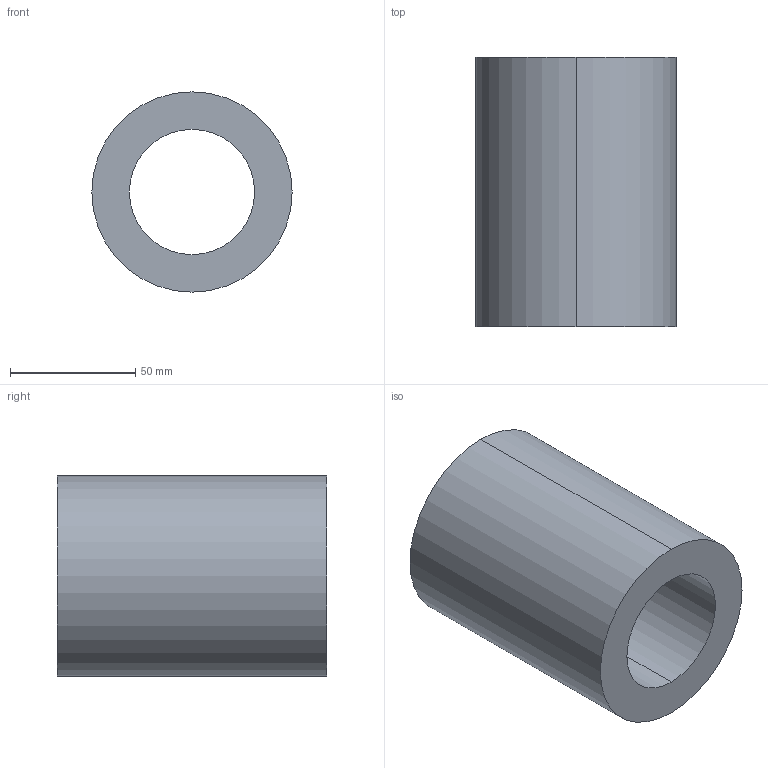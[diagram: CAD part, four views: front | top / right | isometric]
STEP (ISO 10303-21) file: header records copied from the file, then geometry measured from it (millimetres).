
FILE_DESCRIPTION (( 'STEP AP214' ), '1' );
FILE_NAME ('P-087-020-rev-C-Solid.STEP', '2024-01-06T12:16:42', ( '' ), ( '' ), 'SwSTEP 2.0', 'SolidWorks 2023', '' );
FILE_SCHEMA (( 'AUTOMOTIVE_DESIGN' ));
Length unit declared in the file: millimetre
Products named in the file (1): P-087-020-rev-C-Solid
Bounding box: 80 x 107.5 x 80 mm (x, y, z)
Volume: 313697.8 mm3; surface area: 50571.8 mm2
Topology: 1 solids, 1 shells, 9 faces, 18 edges, 12 vertices
Faces by surface type: cylinder 6, plane 3
Entity records: 271 total; most frequent: DIRECTION 50, CARTESIAN_POINT 40, ORIENTED_EDGE 36, AXIS2_PLACEMENT_3D 22, EDGE_CURVE 18, EDGE_LOOP 12, VERTEX_POINT 12, CIRCLE 12
